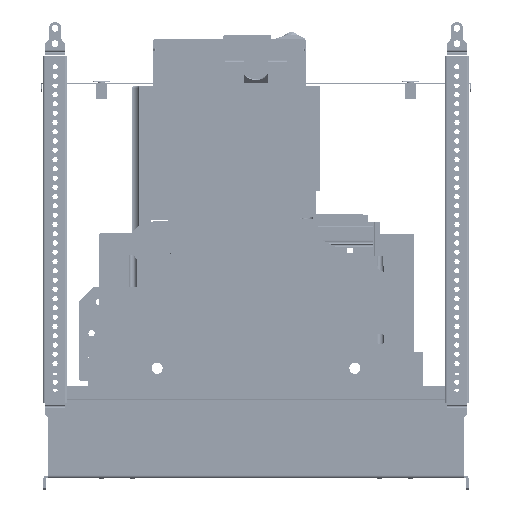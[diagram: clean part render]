
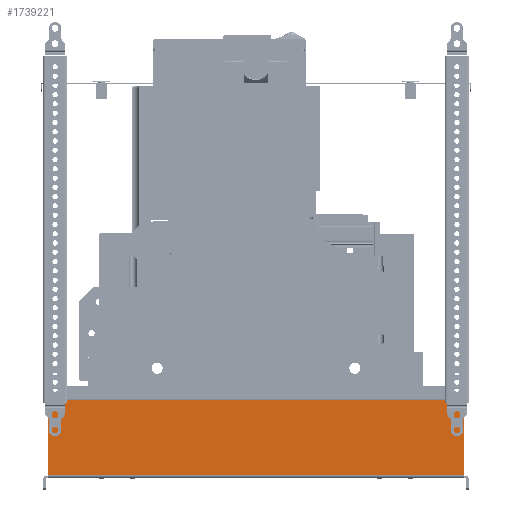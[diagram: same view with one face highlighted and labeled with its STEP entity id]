
A CAD part, left-side view. The second image highlights one B-rep face of the part: STEP entity #1739221.
In plain terms, the highlighted planar face has unit normal (-1, 0, 0).
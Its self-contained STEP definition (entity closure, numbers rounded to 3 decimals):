
#1736151=CARTESIAN_POINT(' ',(-232.061,-165.467,-65.047));
#1736152=VERTEX_POINT(' ',#1736151);
#1736166=CARTESIAN_POINT(' ',(-232.061,-165.467,-65.047));
#1736171=DIRECTION(' ',(0.,1.,0.));
#1736176=VECTOR(' ',#1736171,1.);
#1736181=LINE('',#1736166,#1736176);
#1736186=CARTESIAN_POINT(' ',(-232.061,171.533,-65.047));
#1736187=VERTEX_POINT(' ',#1736186);
#1736191=EDGE_CURVE(' ',#1736152,#1736187,#1736181,.T.);
#1736976=CARTESIAN_POINT(' ',(-232.061,171.533,-4.147));
#1736981=DIRECTION(' ',(0.,0.,-1.));
#1736986=VECTOR(' ',#1736981,1.);
#1736991=LINE('',#1736976,#1736986);
#1736996=CARTESIAN_POINT(' ',(-232.061,171.533,-4.147));
#1736997=VERTEX_POINT(' ',#1736996);
#1737001=EDGE_CURVE(' ',#1736997,#1736187,#1736991,.T.);
#1737561=CARTESIAN_POINT(' ',(-232.061,-165.467,-4.147));
#1737562=VERTEX_POINT(' ',#1737561);
#1737576=CARTESIAN_POINT(' ',(-232.061,-165.467,-65.047));
#1737581=DIRECTION(' ',(0.,0.,1.));
#1737586=VECTOR(' ',#1737581,1.);
#1737591=LINE('',#1737576,#1737586);
#1737596=EDGE_CURVE(' ',#1736152,#1737562,#1737591,.T.);
#1739141=DIRECTION(' ',(-1.,0.,0.));
#1739146=CARTESIAN_POINT(' ',(-232.061,-165.467,-4.147));
#1739151=DIRECTION(' ',(0.,1.,0.));
#1739156=AXIS2_PLACEMENT_3D(' ',#1739146,#1739141,#1739151);
#1739161=PLANE('NONE',#1739156);
#1739166=ORIENTED_EDGE(' ',*,*,#1736191,.F.);
#1739171=ORIENTED_EDGE(' ',*,*,#1737596,.T.);
#1739176=CARTESIAN_POINT(' ',(-232.061,-165.467,-4.147));
#1739181=DIRECTION(' ',(0.,1.,0.));
#1739186=VECTOR(' ',#1739181,1.);
#1739191=LINE('',#1739176,#1739186);
#1739196=EDGE_CURVE(' ',#1737562,#1736997,#1739191,.T.);
#1739201=ORIENTED_EDGE(' ',*,*,#1739196,.T.);
#1739206=ORIENTED_EDGE(' ',*,*,#1737001,.T.);
#1739211=EDGE_LOOP(' ',(#1739166,#1739171,#1739201,#1739206));
#1739216=FACE_OUTER_BOUND(' ',#1739211,.T.);
#1739221=ADVANCED_FACE('NONE',(#1739216),#1739161,.T.);
